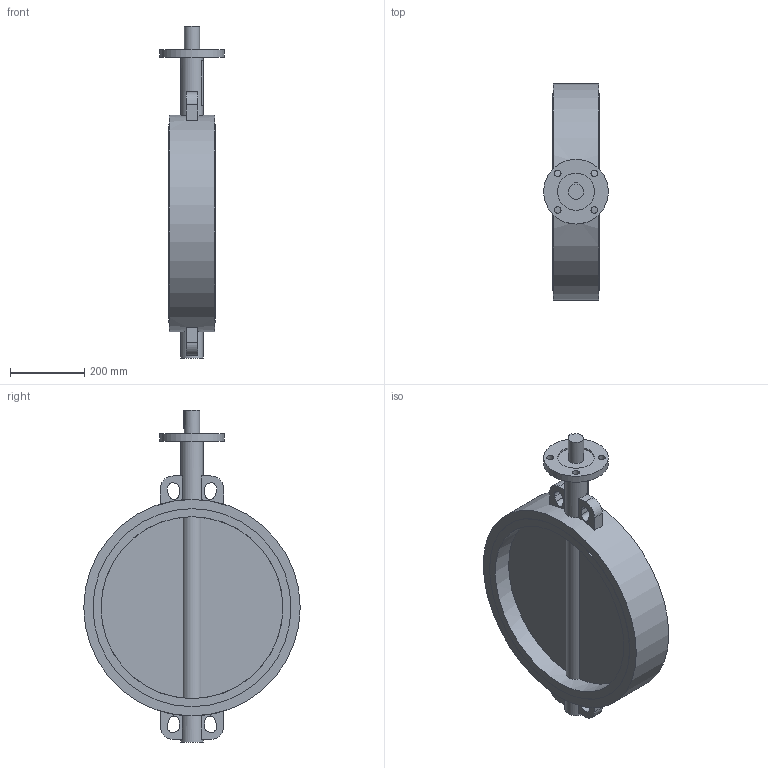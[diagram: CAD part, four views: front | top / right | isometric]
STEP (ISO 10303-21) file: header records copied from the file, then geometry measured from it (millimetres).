
FILE_DESCRIPTION(('STEP AP203'), '1');
FILE_NAME('Çàòâîð 017W.Z(ñòàëü) DN500 PN10_16 áåç èñï. ìåõ-ìà', '', ('UNSPECIFIED'), ('UNSPECIFIED'), 'ASCON STEP Converter 1.6', 'ASCON Math Kernel', '');
FILE_SCHEMA(('CONFIG_CONTROL_DESIGN'));
Length unit declared in the file: millimetre
Bounding box: 175 x 585 x 897.2 mm (x, y, z)
Volume: 16403771.4 mm3; surface area: 1084085.7 mm2
Topology: 1 solids, 1 shells, 751 faces, 2161 edges, 1440 vertices
Faces by surface type: cylinder 573, plane 178
Full cylindrical faces by diameter (mm): 18 x4, 41.2 x1, 60 x2, 100 x1, 175 x1, 491.6 x2, 535 x2, 585 x1
Entity records: 31810 total; most frequent: CARTESIAN_POINT 4919, DIRECTION 4802, ORIENTED_EDGE 4294, EDGE_CURVE 2147, AXIS2_PLACEMENT_3D 1913, VERTEX_POINT 1440, CIRCLE 1161, LINE 976
